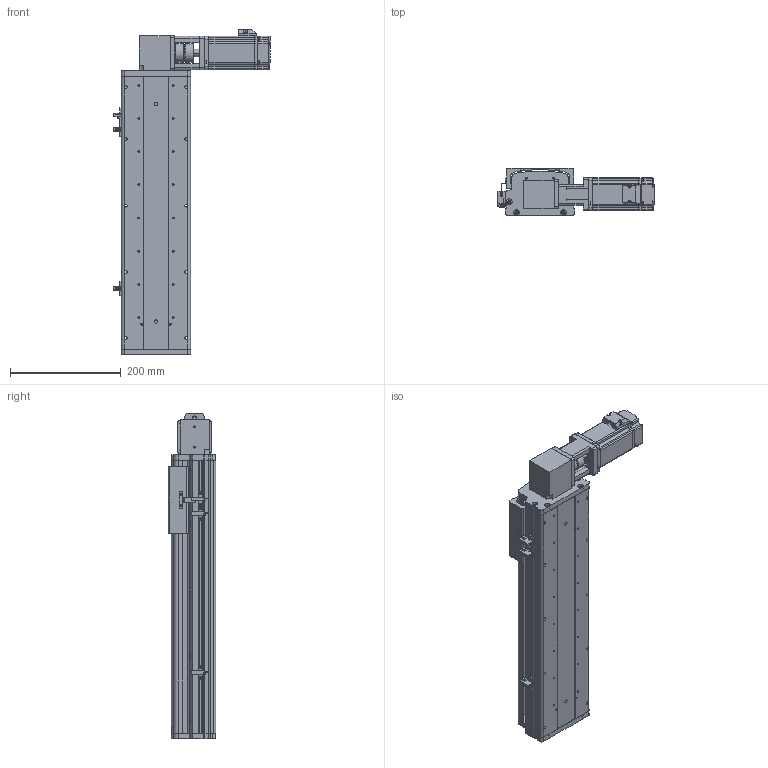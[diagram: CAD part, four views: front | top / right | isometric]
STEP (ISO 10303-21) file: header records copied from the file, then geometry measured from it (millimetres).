
FILE_DESCRIPTION (( 'STEP AP214' ), '1' );
FILE_NAME ('KSD125B-S300-MRT-CM.STEP', '2017-10-21T06:48:16', ( '微软用户' ), ( '微软中国' ), 'SwSTEP 2.0', 'SolidWorks 2014', '' );
FILE_SCHEMA (( 'AUTOMOTIVE_DESIGN' ));
Length unit declared in the file: millimetre
Products named in the file (16): KSD125模组同步带-防撞垫2; CS-34X32-10X14; 100遵鎮湛假蚾啣1 ; 覜茼え68遵圉猾敕; U倰嫖萇假蚾璃; U倰嫖萇EEㄜSX672; KSD125模组同步带-防撞垫1; 100宽安装板同步带带电机座400W,86; 前端板-125宽模组同步带; 125模组同步带-尾端板1; KSD125模组同步带-滑动座1; KSD125B-S300-MRT-CM; MHMD042G1CA_2_03; 100宽马达安装板同步带左; KSD125模组300行程同步带-防尘盖; 125模组300行程同步带-底板
Assembly tree (19 placements, depth 2):
  KSD125B-S300-MRT-CM
    KSD125模组同步带-滑动座1
    125模组同步带-尾端板1
    前端板-125宽模组同步带
    100宽安装板同步带带电机座400W,86
    KSD125模组同步带-防撞垫1
    U倰嫖萇EEㄜSX672  x3
    U倰嫖萇假蚾璃  x3
    覜茼え68遵圉猾敕
    100遵鎮湛假蚾啣1 
    CS-34X32-10X14
    KSD125模组同步带-防撞垫2
    125模组300行程同步带-底板
    KSD125模组300行程同步带-防尘盖
    100宽马达安装板同步带左
    MHMD042G1CA_2_03
Bounding box: 282.7 x 86 x 589 mm (x, y, z)
Volume: 2039863.1 mm3; surface area: 699631.8 mm2
Topology: 18 solids, 21 shells, 1620 faces, 4636 edges, 3056 vertices
Faces by surface type: cylinder 821, plane 696, cone 81, bspline 22
Entity records: 56484 total; most frequent: CARTESIAN_POINT 11486, DIRECTION 8251, ORIENTED_EDGE 7792, EDGE_CURVE 3974, AXIS2_PLACEMENT_3D 3045, VERTEX_POINT 2648, LINE 2161, VECTOR 2161
